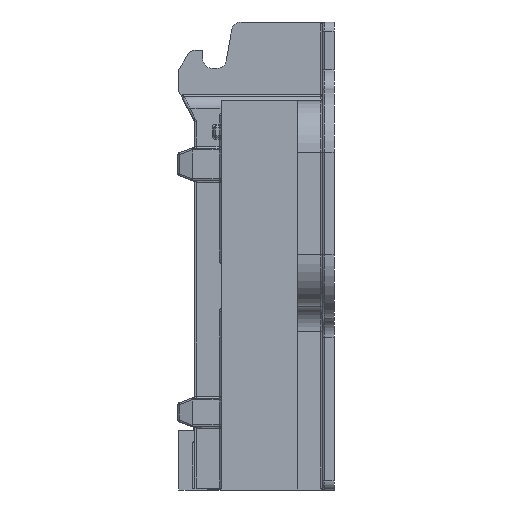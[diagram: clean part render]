
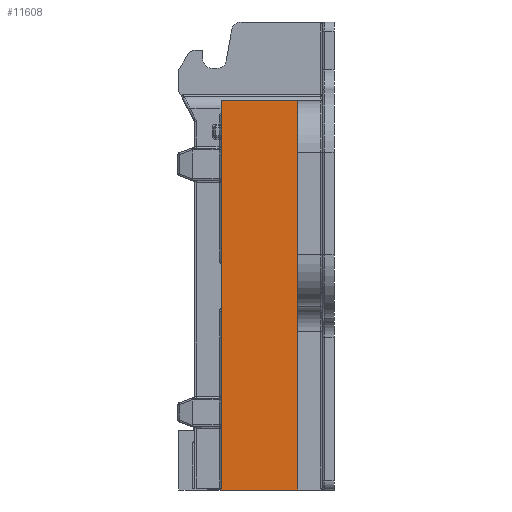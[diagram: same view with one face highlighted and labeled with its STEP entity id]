
A CAD part, left-side view. The second image highlights one B-rep face of the part: STEP entity #11608.
In plain terms, the highlighted planar face has unit normal (-1, 0, 0).
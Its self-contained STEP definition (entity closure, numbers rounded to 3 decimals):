
#241 = CARTESIAN_POINT ( 'NONE',  ( -9.527, 11.8, -0.9 ) ) ;
#418 = VECTOR ( 'NONE', #14278, 1000. ) ;
#421 = VERTEX_POINT ( 'NONE', #3378 ) ;
#515 = CARTESIAN_POINT ( 'NONE',  ( -9.527, -44.861, -0.9 ) ) ;
#852 = VECTOR ( 'NONE', #3807, 1000. ) ;
#3073 = DIRECTION ( 'NONE',  ( 0., 1., 0. ) ) ;
#3110 = EDGE_CURVE ( 'NONE', #5190, #4418, #13989, .T. ) ;
#3378 = CARTESIAN_POINT ( 'NONE',  ( -9.527, 3.8, -0.9 ) ) ;
#3682 = DIRECTION ( 'NONE',  ( 0., 0., 1. ) ) ;
#3807 = DIRECTION ( 'NONE',  ( 0., 1., 0. ) ) ;
#4193 = EDGE_CURVE ( 'NONE', #9121, #4418, #15262, .T. ) ;
#4418 = VERTEX_POINT ( 'NONE', #14687 ) ;
#5146 = ORIENTED_EDGE ( 'NONE', *, *, #3110, .F. ) ;
#5190 = VERTEX_POINT ( 'NONE', #241 ) ;
#5849 = ORIENTED_EDGE ( 'NONE', *, *, #4193, .T. ) ;
#6819 = VECTOR ( 'NONE', #3682, 1000. ) ;
#6832 = FACE_OUTER_BOUND ( 'NONE', #14130, .T. ) ;
#7215 = VECTOR ( 'NONE', #3073, 1000. ) ;
#8233 = LINE ( 'NONE', #9488, #418 ) ;
#8930 = CARTESIAN_POINT ( 'NONE',  ( -9.527, 3.8, 39.713 ) ) ;
#9121 = VERTEX_POINT ( 'NONE', #8930 ) ;
#9415 = DIRECTION ( 'NONE',  ( 0., 0., 1. ) ) ;
#9488 = CARTESIAN_POINT ( 'NONE',  ( -9.527, 3.8, 21.9 ) ) ;
#9593 = EDGE_CURVE ( 'NONE', #9121, #421, #8233, .T. ) ;
#11608 = ADVANCED_FACE ( 'NONE', ( #6832 ), #12233, .T. ) ;
#11901 = LINE ( 'NONE', #515, #7215 ) ;
#12233 = PLANE ( 'NONE',  #13944 ) ;
#13944 = AXIS2_PLACEMENT_3D ( 'NONE', #14713, #15697, #9415 ) ;
#13989 = LINE ( 'NONE', #15066, #6819 ) ;
#14130 = EDGE_LOOP ( 'NONE', ( #5849, #5146, #14994, #16075 ) ) ;
#14278 = DIRECTION ( 'NONE',  ( 0., 0., -1. ) ) ;
#14687 = CARTESIAN_POINT ( 'NONE',  ( -9.527, 11.8, 39.713 ) ) ;
#14713 = CARTESIAN_POINT ( 'NONE',  ( -9.527, -44.861, -0.9 ) ) ;
#14994 = ORIENTED_EDGE ( 'NONE', *, *, #16269, .F. ) ;
#15066 = CARTESIAN_POINT ( 'NONE',  ( -9.527, 11.8, -0.9 ) ) ;
#15262 = LINE ( 'NONE', #16421, #852 ) ;
#15697 = DIRECTION ( 'NONE',  ( -1., 0., 0. ) ) ;
#16075 = ORIENTED_EDGE ( 'NONE', *, *, #9593, .F. ) ;
#16269 = EDGE_CURVE ( 'NONE', #421, #5190, #11901, .T. ) ;
#16421 = CARTESIAN_POINT ( 'NONE',  ( -9.527, -44.861, 39.713 ) ) ;
